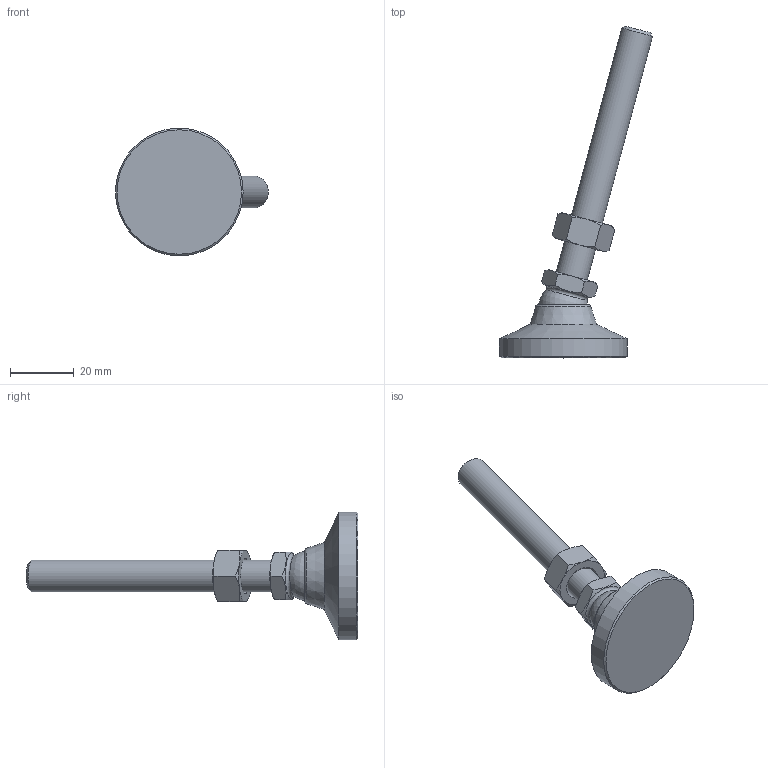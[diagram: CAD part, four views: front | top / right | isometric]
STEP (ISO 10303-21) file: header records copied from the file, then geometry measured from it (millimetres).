
FILE_DESCRIPTION( ( 'STEP AP214' ), ' ' );
FILE_NAME( 'O:/ganter_2015/teil_2/2_5/gn343_2/gn343_2_os/Levelling foot with threaded stud GN 343.2-40-M10-80-OS-(-15).stp', '2015-10-26T09:07:22', ( '' ), ( '' ), ' ', 'PARTsolutions', ' ' );
FILE_SCHEMA( ( 'AUTOMOTIVE_DESIGN { 1 0 10303 214 1 1 1 1 }' ) );
Length unit declared in the file: millimetre
Products named in the file (4): Levelling foot with threaded stud GN 343.2-40-M10-80-OS-(-15); _Levelling foot with threaded stud GN 343.2-40-M10-80-OS-(-15)_foot; _Levelling foot with threaded stud GN 343.2-40-M10-80-OS-(-15)_screw; _Stainless Steel-Levelling feet GN 343.2-40-M10-80-OS-(-15)_nut
Assembly tree (3 placements, depth 2):
  Levelling foot with threaded stud GN 343.2-40-M10-80-OS-(-15)
    _Levelling foot with threaded stud GN 343.2-40-M10-80-OS-(-15)_foot
    _Levelling foot with threaded stud GN 343.2-40-M10-80-OS-(-15)_screw
    _Stainless Steel-Levelling feet GN 343.2-40-M10-80-OS-(-15)_nut
Bounding box: 47.96 x 103.99 x 40 mm (x, y, z)
Volume: 21944.7 mm3; surface area: 8385.8 mm2
Topology: 3 solids, 3 shells, 50 faces, 107 edges, 63 vertices
Faces by surface type: cone 25, plane 18, cylinder 3, torus 2, sphere 2
Full cylindrical faces by diameter (mm): 8.376 x1, 10 x1, 40 x1
Entity records: 1874 total; most frequent: CARTESIAN_POINT 468, DIRECTION 188, ORIENTED_EDGE 176, AXIS2_PLACEMENT_3D 88, EDGE_CURVE 88, EDGE_LOOP 66, VERTEX_POINT 60, FACE_OUTER_BOUND 55
